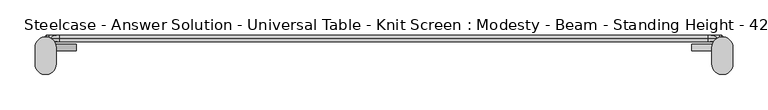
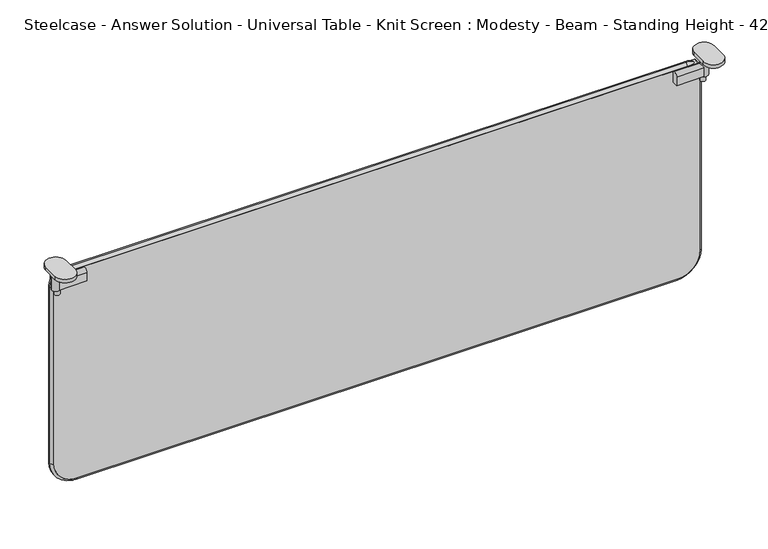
"""IFC4 building model written with IfcOpenShell, lengths in millimetres: furniture geometry, Steelcase - Answer Solution - Universal Table - Knit Screen : Modesty - Beam - Standing Height - 42in."""

from ifc_helpers import new_model, si_unit, point, frame, frame_2d, origin, place, context, project, spatial, polyline, circle_curve, ellipse_curve, trimmed, segment, composite_curve, outline, extrude, source, transform, mapped, element, save
from ifc_brep_helpers import plane_surface, cylinder_surface, revolved_surface, advanced_brep


def steelcase_answer_solution_universal_table_knit_screen_ff2a67a3(model_context):
    return source(origin(), model_context, "Body", "SolidModel", [
        extrude(outline(composite_curve([segment(polyline([(-29.128946, 747.6716837), (-29.128946, 761.0329841)]), True, "CONTINUOUS"), segment(trimmed(circle_curve(frame_2d((-24.4350465, 761.0329841)), 4.6938995), [point((-29.128946, 761.0329841))], [point((-19.7411469, 761.0329841))], False, "CARTESIAN"), True, "CONTINUOUS"), segment(polyline([(-19.7411469, 761.0329841), (-19.7411469, 747.6716837), (-29.128946, 747.6716837)]), True, "CONTINUOUS")], self_intersect=False)), frame((969.0167228, 0.0, 0.0), z_axis=(1.0, 0.0, 0.0), x_axis=(0.0, 1.0, 0.0)), (0.0, 0.0, 1.0), 43.5285515),
        extrude(outline(composite_curve([segment(trimmed(circle_curve(frame_2d((1010.6143327, -24.4352196)), 3.96875), [point((1014.5830827, -24.4352196))], [point((1006.6455827, -24.4352196))], False, "CARTESIAN"), True, "CONTINUOUS"), segment(trimmed(circle_curve(frame_2d((1010.6143327, -24.4352196)), 3.96875), [point((1006.6455827, -24.4352196))], [point((1014.5830827, -24.4352196))], False, "CARTESIAN"), True, "CONTINUOUS")], self_intersect=False)), frame((0.0, 0.0, 739.5915626), z_axis=(0.0, 0.0, 1.0), x_axis=(1.0, 0.0, 0.0)), (0.0, 0.0, 1.0), 8.0801211),
        extrude(outline(composite_curve([segment(trimmed(circle_curve(frame_2d((1012.5452743, -24.4352196)), 5.8800133), [point((1018.4252876, -24.4352196))], [point((1006.665261, -24.4352196))], False, "CARTESIAN"), True, "CONTINUOUS"), segment(trimmed(circle_curve(frame_2d((1012.5452743, -24.4352196)), 5.8800133), [point((1006.665261, -24.4352196))], [point((1018.4252876, -24.4352196))], False, "CARTESIAN"), True, "CONTINUOUS")], self_intersect=False)), frame((0.0, 0.0, 747.6716837), z_axis=(0.0, 0.0, 1.0), x_axis=(1.0, 0.0, 0.0)), (0.0, 0.0, 1.0), 34.3007611),
        extrude(outline(composite_curve([segment(polyline([(1027.601332, -24.6349615), (1027.601332, -48.0866189)]), True, "CONTINUOUS"), segment(trimmed(circle_curve(frame_2d((1012.545565, -48.0866189)), 15.0557671), [point((1027.601332, -48.0866189))], [point((997.4897979, -48.0866189))], False, "CARTESIAN"), True, "CONTINUOUS"), segment(polyline([(997.4897979, -48.0866189), (997.4897979, -24.6349615)]), True, "CONTINUOUS"), segment(trimmed(circle_curve(frame_2d((1012.545565, -24.6349615)), 15.0557671), [point((997.4897979, -24.6349615))], [point((1027.601332, -24.6349615))], False, "CARTESIAN"), True, "CONTINUOUS")], self_intersect=False)), frame((0.0, 0.0, 781.9724448), z_axis=(0.0, 0.0, 1.0), x_axis=(1.0, 0.0, 0.0)), (0.0, 0.0, 1.0), 5.4275552),
        extrude(outline(composite_curve([segment(polyline([(-29.128946, 747.6716837), (-29.128946, 761.0329841)]), True, "CONTINUOUS"), segment(trimmed(circle_curve(frame_2d((-24.4350465, 761.0329841)), 4.6938995), [point((-29.128946, 761.0329841))], [point((-19.7411469, 761.0329841))], False, "CARTESIAN"), True, "CONTINUOUS"), segment(polyline([(-19.7411469, 761.0329841), (-19.7411469, 747.6716837), (-29.128946, 747.6716837)]), True, "CONTINUOUS")], self_intersect=False)), frame((47.6108911, 0.0, 0.0), z_axis=(1.0, 0.0, 0.0), x_axis=(0.0, 1.0, 0.0)), (0.0, 0.0, 1.0), 43.5285515),
        extrude(outline(composite_curve([segment(trimmed(circle_curve(frame_2d((49.5418327, -24.4352196)), 3.96875), [point((45.5730827, -24.4352196))], [point((53.5105827, -24.4352196))], False, "CARTESIAN"), True, "CONTINUOUS"), segment(trimmed(circle_curve(frame_2d((49.5418327, -24.4352196)), 3.96875), [point((53.5105827, -24.4352196))], [point((45.5730827, -24.4352196))], False, "CARTESIAN"), True, "CONTINUOUS")], self_intersect=False)), frame((0.0, 0.0, 739.5915626), z_axis=(0.0, 0.0, 1.0), x_axis=(1.0, 0.0, 0.0)), (0.0, 0.0, 1.0), 8.0801211),
        extrude(outline(composite_curve([segment(trimmed(circle_curve(frame_2d((47.6108911, -24.4352196)), 5.8800133), [point((41.7308778, -24.4352196))], [point((53.4909043, -24.4352196))], False, "CARTESIAN"), True, "CONTINUOUS"), segment(trimmed(circle_curve(frame_2d((47.6108911, -24.4352196)), 5.8800133), [point((53.4909043, -24.4352196))], [point((41.7308778, -24.4352196))], False, "CARTESIAN"), True, "CONTINUOUS")], self_intersect=False)), frame((0.0, 0.0, 747.6716837), z_axis=(0.0, 0.0, 1.0), x_axis=(1.0, 0.0, 0.0)), (0.0, 0.0, 1.0), 34.3007611),
        extrude(outline(composite_curve([segment(trimmed(circle_curve(frame_2d((47.6106004, -24.6349615)), 15.0557671), [point((32.5548333, -24.6349615))], [point((62.6663674, -24.6349615))], False, "CARTESIAN"), True, "CONTINUOUS"), segment(polyline([(62.6663674, -24.6349615), (62.6663674, -48.0866189)]), True, "CONTINUOUS"), segment(trimmed(circle_curve(frame_2d((47.6106004, -48.0866189)), 15.0557671), [point((62.6663674, -48.0866189))], [point((32.5548333, -48.0866189))], False, "CARTESIAN"), True, "CONTINUOUS"), segment(polyline([(32.5548333, -48.0866189), (32.5548333, -24.6349615)]), True, "CONTINUOUS")], self_intersect=False)), frame((0.0, 0.0, 781.9724448), z_axis=(0.0, 0.0, 1.0), x_axis=(1.0, 0.0, 0.0)), (0.0, 0.0, 1.0), 5.4275552),
        extrude(outline(composite_curve([segment(trimmed(circle_curve(frame_2d((465.8734529, 977.5969049)), 33.0004615), [point((432.8729913, 977.5969049))], [point((465.8734529, 1010.5973664))], False, "CARTESIAN"), True, "CONTINUOUS"), segment(polyline([(465.8734529, 1010.5973664), (759.2143507, 1010.5973664)]), True, "CONTINUOUS"), segment(trimmed(circle_curve(frame_2d((759.2143507, 1007.7924906)), 2.8048758), [point((759.2143507, 1010.5973664))], [point((762.0192266, 1007.7924906))], False, "CARTESIAN"), True, "CONTINUOUS"), segment(polyline([(762.0192266, 1007.7924906), (762.0192266, 51.8743664)]), True, "CONTINUOUS"), segment(trimmed(circle_curve(frame_2d((759.7036591, 51.8743664)), 2.3155675), [point((762.0192266, 51.8743664))], [point((759.7036591, 49.5587989))], False, "CARTESIAN"), True, "CONTINUOUS"), segment(polyline([(759.7036591, 49.5587989), (466.7900738, 49.5587989)]), True, "CONTINUOUS"), segment(trimmed(circle_curve(frame_2d((466.7900738, 83.4758814)), 33.9170825), [point((466.7900738, 49.5587989))], [point((432.8729913, 83.4758814))], False, "CARTESIAN"), True, "CONTINUOUS"), segment(polyline([(432.8729913, 83.4758814), (432.8729913, 977.5969049)]), True, "CONTINUOUS")], self_intersect=False)), frame((0.0, -16.5783031, 0.0), z_axis=(0.0, 1.0, 0.0), x_axis=(0.0, 0.0, 1.0)), (0.0, 0.0, 1.0), 9.6878455),
        advanced_brep(
        [(45.5730839, -11.7343804, 744.5906591), (66.9873664, -11.7343804, 766.0049416), (66.9873664, -6.8904577, 762.0192266), (49.5587989, -6.8904577, 744.5906591), (49.5587989, -16.5783031, 744.5906591), (66.9873664, -16.5783031, 762.0192266), (49.5587989, -6.8904577, 466.7900738), (45.5730839, -11.7343804, 466.7900738), (49.5587989, -16.5783031, 466.7900738), (83.4758814, -11.7343804, 428.8872763), (83.4758814, -6.8904577, 432.8729913), (83.4758814, -16.5783031, 432.8729913), (977.5969049, -6.8904577, 432.8729913), (977.5969049, -11.7343804, 428.8872763), (977.5969049, -16.5783031, 432.8729913), (1014.5830815, -11.7343804, 465.8734529), (1010.5973664, -6.8904577, 465.8734529), (1010.5973664, -16.5783031, 465.8734529), (1010.5973664, -6.8904577, 744.1013507), (1014.5830815, -11.7343804, 744.1013507), (1010.5973664, -16.5783031, 744.1013507), (992.6794906, -11.7343804, 766.0049416), (992.6794906, -6.8904577, 762.0192266), (992.6794906, -16.5783031, 762.0192266)],
        [
            (0, 1, circle_curve(frame((66.9873664, -11.7343804, 744.5906591), z_axis=(0.0, 1.0, 0.0), x_axis=(0.0, 0.0, 1.0)), 21.4142825)),
            (1, 2, circle_curve(frame((66.9873664, -11.7343804, 761.0686238), z_axis=(-1.0, 0.0, 0.0), x_axis=(0.0, 0.0, 1.0)), 4.9363178)),
            (2, 3, circle_curve(frame((66.9873664, -6.8904577, 744.5906591), z_axis=(0.0, -1.0, 0.0), x_axis=(0.0, 0.0, 1.0)), 17.4285675)),
            (3, 0, circle_curve(frame((50.5094016, -11.7343804, 744.5906591), z_axis=(0.0, 0.0, 1.0), x_axis=(-1.0, 0.0, 0.0)), 4.9363178)),
            (4, 5, circle_curve(frame((66.9873664, -16.5783031, 744.5906591), z_axis=(0.0, 1.0, 0.0), x_axis=(0.0, 0.0, 1.0)), 17.4285675)),
            (5, 1, circle_curve(frame((66.9873664, -11.7343804, 761.0686238), z_axis=(-1.0, 0.0, 0.0), x_axis=(0.0, 0.0, 1.0)), 4.9363178)),
            (0, 4, circle_curve(frame((50.5094016, -11.7343804, 744.5906591), z_axis=(0.0, 0.0, 1.0), x_axis=(-1.0, 0.0, 0.0)), 4.9363178)),
            (2, 5),
            (4, 3),
            (3, 6),
            (6, 7, circle_curve(frame((50.5094016, -11.7343804, 466.7900738), z_axis=(0.0, 0.0, 1.0), x_axis=(-1.0, 0.0, 0.0)), 4.9363178)),
            (7, 0),
            (7, 8, circle_curve(frame((50.5094016, -11.7343804, 466.7900738), z_axis=(0.0, 0.0, 1.0), x_axis=(-1.0, 0.0, 0.0)), 4.9363178)),
            (8, 4),
            (8, 6),
            (9, 7, circle_curve(frame((83.4758814, -11.7343804, 466.7900738), z_axis=(0.0, 1.0, 0.0), x_axis=(-1.0, 0.0, 0.0)), 37.9027975)),
            (6, 10, circle_curve(frame((83.4758814, -6.8904577, 466.7900738), z_axis=(0.0, -1.0, 0.0), x_axis=(-1.0, 0.0, 0.0)), 33.9170825)),
            (10, 9, circle_curve(frame((83.4758814, -11.7343804, 433.823594), z_axis=(-1.0, 0.0, 0.0), x_axis=(0.0, 0.0, -1.0)), 4.9363178)),
            (11, 8, circle_curve(frame((83.4758814, -16.5783031, 466.7900738), z_axis=(0.0, 1.0, 0.0), x_axis=(-1.0, 0.0, 0.0)), 33.9170825)),
            (9, 11, circle_curve(frame((83.4758814, -11.7343804, 433.823594), z_axis=(-1.0, 0.0, 0.0), x_axis=(0.0, 0.0, -1.0)), 4.9363178)),
            (11, 10),
            (10, 12),
            (12, 13, circle_curve(frame((977.5969049, -11.7343804, 433.823594), z_axis=(-1.0, 0.0, 0.0), x_axis=(0.0, 0.0, -1.0)), 4.9363178)),
            (13, 9),
            (13, 14, circle_curve(frame((977.5969049, -11.7343804, 433.823594), z_axis=(-1.0, 0.0, 0.0), x_axis=(0.0, 0.0, -1.0)), 4.9363178)),
            (14, 11),
            (14, 12),
            (15, 13, circle_curve(frame((977.5969049, -11.7343804, 465.8734529), z_axis=(0.0, 1.0, 0.0), x_axis=(0.0, 0.0, -1.0)), 36.9861766)),
            (12, 16, circle_curve(frame((977.5969049, -6.8904577, 465.8734529), z_axis=(0.0, -1.0, 0.0), x_axis=(0.0, 0.0, -1.0)), 33.0004615)),
            (16, 15, circle_curve(frame((1009.6467637, -11.7343804, 465.8734529), z_axis=(0.0, 0.0, -1.0), x_axis=(1.0, 0.0, 0.0)), 4.9363178)),
            (17, 14, circle_curve(frame((977.5969049, -16.5783031, 465.8734529), z_axis=(0.0, 1.0, 0.0), x_axis=(0.0, 0.0, -1.0)), 33.0004615)),
            (15, 17, circle_curve(frame((1009.6467637, -11.7343804, 465.8734529), z_axis=(0.0, 0.0, -1.0), x_axis=(1.0, 0.0, 0.0)), 4.9363178)),
            (17, 16),
            (16, 18),
            (18, 19, circle_curve(frame((1009.6467637, -11.7343804, 744.1013507), z_axis=(0.0, 0.0, -1.0), x_axis=(1.0, 0.0, 0.0)), 4.9363178)),
            (19, 15),
            (19, 20, circle_curve(frame((1009.6467637, -11.7343804, 744.1013507), z_axis=(0.0, 0.0, -1.0), x_axis=(1.0, 0.0, 0.0)), 4.9363178)),
            (20, 17),
            (20, 18),
            (21, 19, circle_curve(frame((992.6794906, -11.7343804, 744.1013507), z_axis=(0.0, 1.0, 0.0), x_axis=(1.0, 0.0, 0.0)), 21.9035909)),
            (18, 22, circle_curve(frame((992.6794906, -6.8904577, 744.1013507), z_axis=(0.0, -1.0, 0.0), x_axis=(1.0, 0.0, 0.0)), 17.9178758)),
            (22, 21, circle_curve(frame((992.6794906, -11.7343804, 761.0686238), z_axis=(1.0, 0.0, 0.0), x_axis=(0.0, 0.0, 1.0)), 4.9363178)),
            (23, 20, circle_curve(frame((992.6794906, -16.5783031, 744.1013507), z_axis=(0.0, 1.0, 0.0), x_axis=(1.0, 0.0, 0.0)), 17.9178758)),
            (21, 23, circle_curve(frame((992.6794906, -11.7343804, 761.0686238), z_axis=(1.0, 0.0, 0.0), x_axis=(0.0, 0.0, 1.0)), 4.9363178)),
            (23, 22),
            (22, 2),
            (1, 21),
            (5, 23),
        ],
        [
            revolved_surface(trimmed(ellipse_curve(frame((66.9873664, -11.7343804, 761.0686238), z_axis=(1.0, 0.0, 0.0), x_axis=(0.0, 0.0, 1.0)), 4.9363178, 4.9363178), [point((66.9873664, -6.8904577, 762.0192266))], [point((66.9873664, -11.7343804, 766.0049416))], True, "CARTESIAN"), (66.9873664, -11.7343804, 744.5906591), (0.0, -1.0, 0.0)),
            revolved_surface(trimmed(ellipse_curve(frame((66.9873664, -11.7343804, 761.0686238), z_axis=(1.0, 0.0, 0.0), x_axis=(0.0, 0.0, 1.0)), 4.9363178, 4.9363178), [point((66.9873664, -11.7343804, 766.0049416))], [point((66.9873664, -16.5783031, 762.0192266))], True, "CARTESIAN"), (66.9873664, -11.7343804, 744.5906591), (0.0, -1.0, 0.0)),
            revolved_surface(polyline([(66.9873664, -16.5783031, 762.0192266), (66.9873664, -6.8904577, 762.0192266)]), (66.9873664, -11.7343804, 744.5906591), (0.0, -1.0, 0.0)),
            cylinder_surface(frame((50.5094016, -11.7343804, 744.5906591), z_axis=(0.0, 0.0, 1.0), x_axis=(-1.0, 0.0, 0.0)), 4.9363178),
            plane_surface(frame((49.5587989, -16.5783031, 744.5906591), z_axis=(1.0, 0.0, 0.0), x_axis=(0.0, 0.0, -1.0))),
            revolved_surface(trimmed(ellipse_curve(frame((50.5094016, -11.7343804, 466.7900738), z_axis=(0.0, 0.0, 1.0), x_axis=(-1.0, 0.0, 0.0)), 4.9363178, 4.9363178), [point((49.5587989, -6.8904577, 466.7900738))], [point((45.5730839, -11.7343804, 466.7900738))], True, "CARTESIAN"), (83.4758814, -11.7343804, 466.7900738), (0.0, -1.0, 0.0)),
            revolved_surface(trimmed(ellipse_curve(frame((50.5094016, -11.7343804, 466.7900738), z_axis=(0.0, 0.0, 1.0), x_axis=(-1.0, 0.0, 0.0)), 4.9363178, 4.9363178), [point((45.5730839, -11.7343804, 466.7900738))], [point((49.5587989, -16.5783031, 466.7900738))], True, "CARTESIAN"), (83.4758814, -11.7343804, 466.7900738), (0.0, -1.0, 0.0)),
            revolved_surface(polyline([(49.558798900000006, -16.5783031, 466.7900738), (49.558798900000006, -6.8904577, 466.7900738)]), (83.4758814, -11.7343804, 466.7900738), (0.0, -1.0, 0.0)),
            cylinder_surface(frame((83.4758814, -11.7343804, 433.823594), z_axis=(-1.0, 0.0, 0.0), x_axis=(0.0, 0.0, -1.0)), 4.9363178),
            plane_surface(frame((83.4758814, -16.5783031, 432.8729913), z_axis=(0.0, 0.0, 1.0), x_axis=(1.0, 0.0, 0.0))),
            revolved_surface(trimmed(ellipse_curve(frame((977.5969049, -11.7343804, 433.823594), z_axis=(-1.0, 0.0, 0.0), x_axis=(0.0, 0.0, -1.0)), 4.9363178, 4.9363178), [point((977.5969049, -6.8904577, 432.8729913))], [point((977.5969049, -11.7343804, 428.8872763))], True, "CARTESIAN"), (977.5969049, -11.7343804, 465.8734529), (0.0, -1.0, 0.0)),
            revolved_surface(trimmed(ellipse_curve(frame((977.5969049, -11.7343804, 433.823594), z_axis=(-1.0, 0.0, 0.0), x_axis=(0.0, 0.0, -1.0)), 4.9363178, 4.9363178), [point((977.5969049, -11.7343804, 428.8872763))], [point((977.5969049, -16.5783031, 432.8729913))], True, "CARTESIAN"), (977.5969049, -11.7343804, 465.8734529), (0.0, -1.0, 0.0)),
            revolved_surface(polyline([(977.5969049, -16.5783031, 432.87299140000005), (977.5969049, -6.8904577, 432.87299140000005)]), (977.5969049, -11.7343804, 465.8734529), (0.0, -1.0, 0.0)),
            cylinder_surface(frame((1009.6467637, -11.7343804, 465.8734529), z_axis=(0.0, 0.0, -1.0), x_axis=(1.0, 0.0, 0.0)), 4.9363178),
            plane_surface(frame((1010.5973664, -16.5783031, 465.8734529), z_axis=(-1.0, 0.0, 0.0), x_axis=(0.0, 0.0, 1.0))),
            revolved_surface(trimmed(ellipse_curve(frame((1009.6467637, -11.7343804, 744.1013507), z_axis=(0.0, 0.0, -1.0), x_axis=(1.0, 0.0, 0.0)), 4.9363178, 4.9363178), [point((1010.5973664, -6.8904577, 744.1013507))], [point((1014.5830815, -11.7343804, 744.1013507))], True, "CARTESIAN"), (992.6794906, -11.7343804, 744.1013507), (0.0, -1.0, 0.0)),
            revolved_surface(trimmed(ellipse_curve(frame((1009.6467637, -11.7343804, 744.1013507), z_axis=(0.0, 0.0, -1.0), x_axis=(1.0, 0.0, 0.0)), 4.9363178, 4.9363178), [point((1014.5830815, -11.7343804, 744.1013507))], [point((1010.5973664, -16.5783031, 744.1013507))], True, "CARTESIAN"), (992.6794906, -11.7343804, 744.1013507), (0.0, -1.0, 0.0)),
            revolved_surface(polyline([(1010.5973664, -16.5783031, 744.1013507), (1010.5973664, -6.8904577, 744.1013507)]), (992.6794906, -11.7343804, 744.1013507), (0.0, -1.0, 0.0)),
            cylinder_surface(frame((992.6794906, -11.7343804, 761.0686238), z_axis=(1.0, 0.0, 0.0), x_axis=(0.0, 0.0, 1.0)), 4.9363178),
            plane_surface(frame((992.6794906, -16.5783031, 762.0192266), z_axis=(0.0, 0.0, -1.0), x_axis=(-1.0, 0.0, 0.0))),
        ],
        [
            (0, [[1, 2, 3, 4]]),
            (1, [[5, 6, -1, 7]]),
            (2, [[-3, 8, -5, 9]]),
            (3, [[-4, 10, 11, 12]]),
            (3, [[-7, -12, 13, 14]]),
            (4, [[-9, -14, 15, -10]]),
            (5, [[16, -11, 17, 18]]),
            (6, [[19, -13, -16, 20]]),
            (7, [[-17, -15, -19, 21]]),
            (8, [[-18, 22, 23, 24]]),
            (8, [[-20, -24, 25, 26]]),
            (9, [[-21, -26, 27, -22]]),
            (10, [[28, -23, 29, 30]]),
            (11, [[31, -25, -28, 32]]),
            (12, [[-29, -27, -31, 33]]),
            (13, [[-30, 34, 35, 36]]),
            (13, [[-32, -36, 37, 38]]),
            (14, [[-33, -38, 39, -34]]),
            (15, [[40, -35, 41, 42]]),
            (16, [[43, -37, -40, 44]]),
            (17, [[-41, -39, -43, 45]]),
            (18, [[-42, 46, -2, 47]]),
            (18, [[-44, -47, -6, 48]]),
            (19, [[-45, -48, -8, -46]]),
        ],
    ),
    ])


if __name__ == "__main__":
    model = new_model("IFC4")
    model_context = context("Model", 3, world=origin())
    ifc_project = project(units=[si_unit("LENGTHUNIT", "METRE", prefix="MILLI")], contexts=[model_context])
    site = spatial("IfcSite", under=ifc_project)
    building = spatial("IfcBuilding", under=site)
    placement = place(None, origin())
    steelcase_answer_solution_universal_table_knit_screen_shape = steelcase_answer_solution_universal_table_knit_screen_ff2a67a3(model_context)
    element("IfcFurniture", 1, ObjectType="Steelcase - Answer Solution - Universal Table - Knit Screen : Modesty - Beam - Standing Height - 42in", at=placement, inside=building, context=model_context, shape_type="MappedRepresentation", body=[
        mapped(steelcase_answer_solution_universal_table_knit_screen_shape, transform((0.0, 0.0, 0.0), x_axis=(1.0, 0.0, 0.0), y_axis=(0.0, 1.0, 0.0), z_axis=(0.0, 0.0, 1.0))),
    ])
    save(model, "model.ifc")
